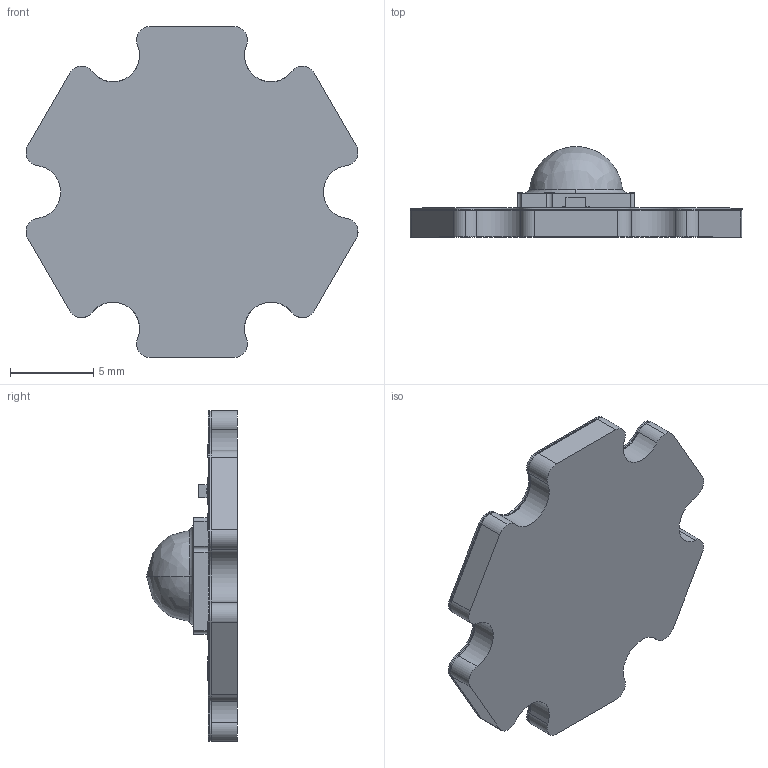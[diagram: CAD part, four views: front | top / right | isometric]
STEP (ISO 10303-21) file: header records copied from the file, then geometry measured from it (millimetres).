
FILE_DESCRIPTION (( 'STEP AP214' ), '1' );
FILE_NAME ('1900-0082-P3_LZ4_1x4_MCPCB_RevB.STEP', '2013-02-25T22:09:51', ( '' ), ( '' ), 'SwSTEP 2.0', 'SolidWorks 2011', '' );
FILE_SCHEMA (( 'AUTOMOTIVE_DESIGN' ));
Length unit declared in the file: millimetre
Products named in the file (4): 1900-0082-BGQ; LZ4-00XX08-P3_LZ4-Emitter-Dome-Lens_RevA_PART_cpy_02-19-13; BZX585 zener esd SOD523_cpy_BZX585-C30; 1900-0082-P3_LZ4_1x4_MCPCB_RevB
Assembly tree (3 placements, depth 2):
  1900-0082-P3_LZ4_1x4_MCPCB_RevB
    1900-0082-BGQ
    BZX585 zener esd SOD523_cpy_BZX585-C30
    LZ4-00XX08-P3_LZ4-Emitter-Dome-Lens_RevA_PART_cpy_02-19-13
Bounding box: 19.96 x 5.45 x 19.9 mm (x, y, z)
Volume: 589.8 mm3; surface area: 2336.5 mm2
Topology: 56 solids, 56 shells, 801 faces, 2060 edges, 1370 vertices
Faces by surface type: plane 510, cylinder 206, bspline 81, torus 2, sphere 2
Entity records: 37425 total; most frequent: CARTESIAN_POINT 8840, ORIENTED_EDGE 4104, DIRECTION 3773, EDGE_CURVE 2052, LINE 1467, VECTOR 1467, VERTEX_POINT 1368, AXIS2_PLACEMENT_3D 1153
